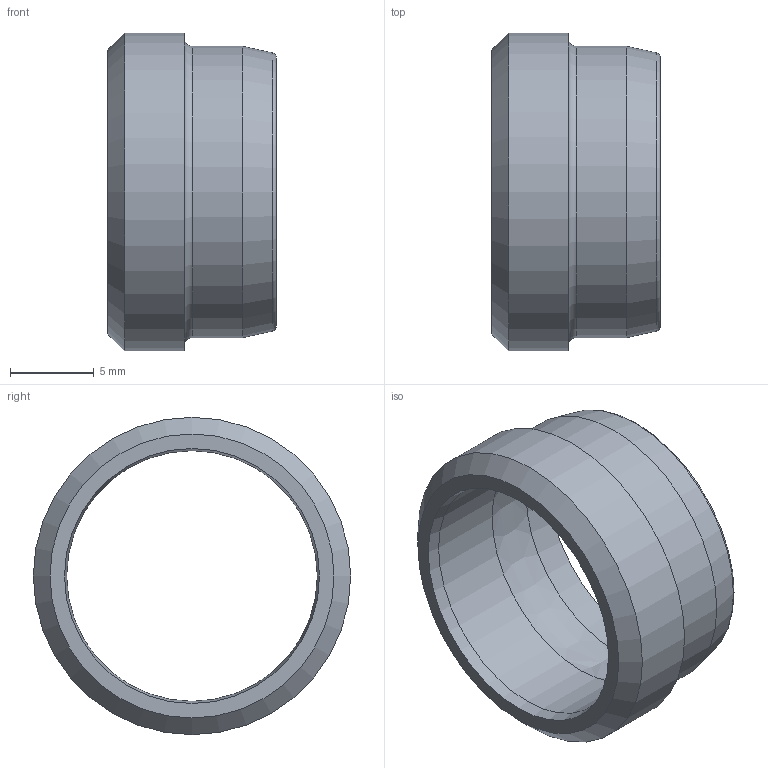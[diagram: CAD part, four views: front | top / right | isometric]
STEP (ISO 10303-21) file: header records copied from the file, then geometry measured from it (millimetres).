
FILE_DESCRIPTION( ( 'Unknown' ), '1' );
FILE_NAME( 'C:/Users/p.nanko/Desktop/3D SR/D15L.stp', 'Unknown', ( 'Peter Nanko' ), ( 'Armaturen Arndt' ), 'PSStep 14.0', 'Solid Edge ST4', ' ' );
FILE_SCHEMA( ( 'AUTOMOTIVE_DESIGN { 1 0 10303 214 1 1 1 1 }' ) );
Length unit declared in the file: millimetre
Products named in the file (1): 1001ESTERNO#0
Bounding box: 10.07 x 19 x 19 mm (x, y, z)
Volume: 734 mm3; surface area: 1205.4 mm2
Topology: 1 solids, 1 shells, 15 faces, 30 edges, 19 vertices
Faces by surface type: plane 4, cone 4, torus 3, cylinder 3, bspline 1
Full cylindrical faces by diameter (mm): 15 x1, 17.45 x1, 19 x1
Entity records: 467 total; most frequent: CARTESIAN_POINT 73, DIRECTION 60, AXIS2_PLACEMENT_3D 30, EDGE_LOOP 30, ORIENTED_EDGE 30, FACE_OUTER_BOUND 22, STYLED_ITEM 15, PRESENTATION_STYLE_ASSIGNMENT 15
